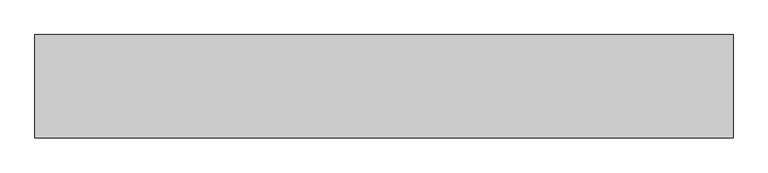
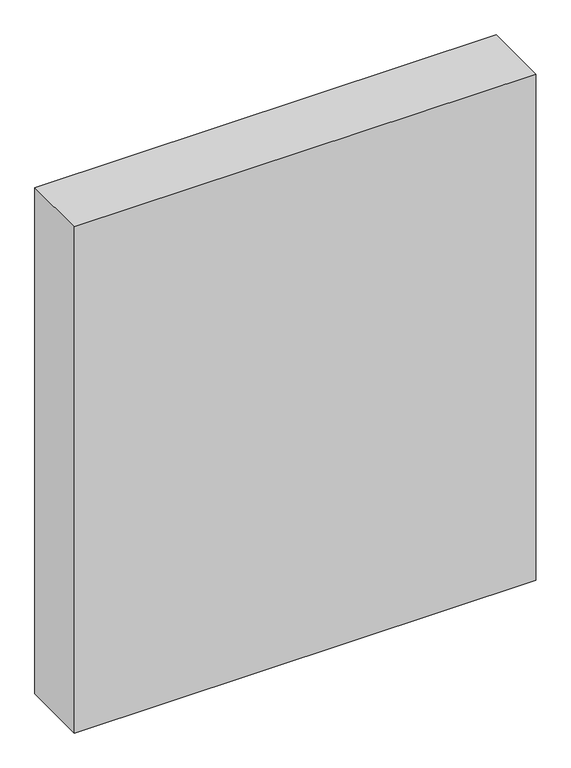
"""IFC4 building model written with IfcOpenShell, lengths in millimetres: proxy geometry."""

import ifcopenshell
import ifcopenshell.guid

model = None  # the IFC model being written
_history = None  # IfcOwnerHistory: only IFC2X3 demands one
_inside = {}  # id of a spatial element -> (the spatial element, [elements in it])
_under = {}  # id of a project, library or spatial element -> (it, [spatial elements below it])
_declared = {}  # id of a project -> (the project, [libraries it declares])
_typed = {}  # id of a type object -> (the type object, [elements of that type])
_made_of = {}  # id of a material, layer set ... -> (it, [elements and type objects made of it])


def new_model(schema):
    """Start an empty IFC model of exactly this schema.

    Asked for "IFC4X3", IfcOpenShell would pick the latest addendum, in which some entities
    have other attributes; the version numbers below select the first issue.
    IFC2X3 requires an IfcOwnerHistory on every rooted entity: one is made here for all.
    """
    global model, _history
    if schema == "IFC4X3":
        model = ifcopenshell.file(schema_version=(4, 3, 0, 0))
    else:
        model = ifcopenshell.file(schema=schema)
    _inside.clear()
    _under.clear()
    _declared.clear()
    _typed.clear()
    _made_of.clear()
    _history = None
    if model.schema == "IFC2X3":
        org = make("IfcOrganization", Name="unknown")
        user = make(
            "IfcPersonAndOrganization",
            ThePerson=make("IfcPerson", FamilyName="unknown"),
            TheOrganization=org,
        )
        app = make(
            "IfcApplication",
            ApplicationDeveloper=org,
            Version="unknown",
            ApplicationFullName="unknown",
            ApplicationIdentifier="unknown",
        )
        _history = make(
            "IfcOwnerHistory",
            OwningUser=user,
            OwningApplication=app,
            ChangeAction="ADDED",
            CreationDate=0,
        )
    return model


def make(cls, **values):
    """One entity of the class cls with the attributes given. An attribute that is None is left unset."""
    return model.create_entity(
        cls, **{name: value for name, value in values.items() if value is not None}
    )


def rooted(cls, **values):
    """An entity with a GlobalId (a new one), such as an element, a storey or a relation."""
    return make(cls, GlobalId=ifcopenshell.guid.new(), OwnerHistory=_history, **values)


def si_unit(unit_type, name, prefix=None):
    """IfcSIUnit, for example si_unit("LENGTHUNIT", "METRE", prefix="MILLI")."""
    return make("IfcSIUnit", UnitType=unit_type, Prefix=prefix, Name=name)


def assignment(units):
    """IfcUnitAssignment: the units of a project."""
    return None if units is None else make("IfcUnitAssignment", Units=units)


def point(xyz):
    """IfcCartesianPoint."""
    return None if xyz is None else make("IfcCartesianPoint", Coordinates=xyz)


def direction(xyz):
    """IfcDirection."""
    return None if xyz is None else make("IfcDirection", DirectionRatios=xyz)


def frame(location, z_axis=None, x_axis=None):
    """IfcAxis2Placement3D, a coordinate frame: its origin and axes. An axis left out is left unset."""
    return make(
        "IfcAxis2Placement3D",
        Location=point(location),
        Axis=direction(z_axis),
        RefDirection=direction(x_axis),
    )


def origin():
    """The frame at (0, 0, 0) with its axes left unset."""
    return frame((0.0, 0.0, 0.0))


def origin_with_axes():
    """The frame at (0, 0, 0) with the z axis (0, 0, 1) and the x axis (1, 0, 0) written out."""
    return frame((0.0, 0.0, 0.0), z_axis=(0.0, 0.0, 1.0), x_axis=(1.0, 0.0, 0.0))


def place(relative_to, where):
    """IfcLocalPlacement: puts the frame where relative to a parent placement (None: the world)."""
    return make(
        "IfcLocalPlacement", PlacementRelTo=relative_to, RelativePlacement=where
    )


def context(
    kind, dimensions, precision=None, world=None, true_north=None, identifier=None
):
    """IfcGeometricRepresentationContext, for example the 3D "Model" context."""
    return make(
        "IfcGeometricRepresentationContext",
        ContextIdentifier=identifier,
        ContextType=kind,
        CoordinateSpaceDimension=dimensions,
        Precision=precision,
        WorldCoordinateSystem=world,
        TrueNorth=true_north,
    )


def project(units=None, contexts=None):
    """IfcProject with its units and contexts."""
    return rooted(
        "IfcProject",
        Name="project",
        RepresentationContexts=contexts,
        UnitsInContext=assignment(units),
    )


def spatial(cls, under=None, at=None, **own):
    """A site, building, storey or space (cls), placed at a placement, below another one or the project."""
    s = rooted(cls, ObjectPlacement=at, **own)
    if under is not None:
        _under.setdefault(under.id(), (under, []))[1].append(s)
    return s


def polyline(points):
    """IfcPolyline through the points."""
    return make("IfcPolyline", Points=[point(p) for p in points])


def outline(outer, holes=None, kind="AREA"):
    """IfcArbitraryClosedProfileDef: a profile drawn as a closed curve; with holes, ...WithVoids."""
    if holes is None:
        return make("IfcArbitraryClosedProfileDef", ProfileType=kind, OuterCurve=outer)
    return make(
        "IfcArbitraryProfileDefWithVoids",
        ProfileType=kind,
        OuterCurve=outer,
        InnerCurves=holes,
    )


def extrude(swept, where, along, depth):
    """IfcExtrudedAreaSolid: the profile swept, set in the frame where, extruded along a direction by depth."""
    return make(
        "IfcExtrudedAreaSolid",
        SweptArea=swept,
        Position=where,
        ExtrudedDirection=direction(along),
        Depth=depth,
    )


def shape(context_of_items, identifier, shape_type, items):
    """IfcShapeRepresentation: the items that make up one representation, for example the "Body"."""
    return make(
        "IfcShapeRepresentation",
        ContextOfItems=context_of_items,
        RepresentationIdentifier=identifier,
        RepresentationType=shape_type,
        Items=items,
    )


def source(mapping_origin, context_of_items, identifier, shape_type, items):
    """IfcRepresentationMap: a shape defined once, which mapped items show again and again."""
    return make(
        "IfcRepresentationMap",
        MappingOrigin=mapping_origin,
        MappedRepresentation=shape(context_of_items, identifier, shape_type, items),
    )


def transform(
    local_origin,
    x_axis=None,
    y_axis=None,
    z_axis=None,
    scale=None,
    scale2=None,
    scale3=None,
    uniform=True,
):
    """IfcCartesianTransformationOperator3D, or its non-uniform kind. x_axis, y_axis, z_axis: its Axis1, 2, 3."""
    if uniform:
        return make(
            "IfcCartesianTransformationOperator3D",
            Axis1=direction(x_axis),
            Axis2=direction(y_axis),
            LocalOrigin=point(local_origin),
            Scale=scale,
            Axis3=direction(z_axis),
        )
    return make(
        "IfcCartesianTransformationOperator3DnonUniform",
        Axis1=direction(x_axis),
        Axis2=direction(y_axis),
        LocalOrigin=point(local_origin),
        Scale=scale,
        Axis3=direction(z_axis),
        Scale2=scale2,
        Scale3=scale3,
    )


def mapped(mapping_source, mapping_target):
    """IfcMappedItem: shows the shape of a source again, moved by a transform."""
    return make(
        "IfcMappedItem", MappingSource=mapping_source, MappingTarget=mapping_target
    )


def made_of(thing, what):
    """Note that an element or type object is made of a material, layer set ...; save() writes the relation."""
    if what is not None:
        _made_of.setdefault(what.id(), (what, []))[1].append(thing)
    return thing


def element(
    cls,
    number,
    at=None,
    inside=None,
    cuts=None,
    type_object=None,
    material=None,
    context=None,
    identifier="Body",
    shape_type=None,
    held_by="IfcProductDefinitionShape",
    body=None,
    shapes=None,
    **own,
):
    """One element of the class cls, such as IfcWall. Its Tag is "e" and its number.

    at: its placement. inside: the storey or other place that contains it. cuts: it is an
    opening in that element (IfcRelVoidsElement). A single representation is given by context,
    identifier, shape_type and body (its items); several are given by shapes. held_by: the class
    of the entity that holds the representations. save() writes the other relations.
    """
    e = rooted(cls, Tag="e%d" % number, ObjectPlacement=at, **own)
    if body is not None:
        shapes = [shape(context, identifier, shape_type, body)]
    if shapes is not None:
        e.Representation = make(held_by, Representations=shapes)
    if inside is not None:
        _inside.setdefault(inside.id(), (inside, []))[1].append(e)
    if cuts is not None:
        rooted(
            "IfcRelVoidsElement", RelatingBuildingElement=cuts, RelatedOpeningElement=e
        )
    if type_object is not None:
        _typed.setdefault(type_object.id(), (type_object, []))[1].append(e)
    return made_of(e, material)


def aggregate(whole, parts):
    """IfcRelAggregates: a whole, such as a stair, and the parts it consists of."""
    return rooted("IfcRelAggregates", RelatingObject=whole, RelatedObjects=parts)


def save(model, path):
    """Write the relations noted so far, then the file.

    IfcRelAggregates (storeys below a building ...), IfcRelContainedInSpatialStructure (elements
    in a storey), IfcRelDefinesByType, IfcRelAssociatesMaterial and IfcRelDeclares: one each for
    every whole, place, type object, material and project.
    """
    for whole, parts in _under.values():
        aggregate(whole, parts)
    for where, things in _inside.values():
        rooted(
            "IfcRelContainedInSpatialStructure",
            RelatedElements=things,
            RelatingStructure=where,
        )
    for kind, things in _typed.values():
        rooted("IfcRelDefinesByType", RelatedObjects=things, RelatingType=kind)
    for what, things in _made_of.values():
        rooted("IfcRelAssociatesMaterial", RelatedObjects=things, RelatingMaterial=what)
    for by, libraries in _declared.values():
        rooted("IfcRelDeclares", RelatingContext=by, RelatedDefinitions=libraries)
    model.write(path)


def generic_models_eff55e57(model_context):
    return source(origin(), model_context, "Body", "SweptSolid", [
        extrude(outline(polyline([(-101948.3455046, -27230.7903364), (-104646.1304765, -27230.7903364), (-104646.1304765, -26830.7903364), (-101948.3455046, -26830.7903364), (-101948.3455046, -27230.7903364)])), origin_with_axes(), (0.0, 0.0, 1.0), 3130.0),
    ])


if __name__ == "__main__":
    model = new_model("IFC4")
    model_context = context("Model", 3, world=origin())
    ifc_project = project(units=[si_unit("LENGTHUNIT", "METRE", prefix="MILLI")], contexts=[model_context])
    site = spatial("IfcSite", under=ifc_project)
    building = spatial("IfcBuilding", under=site)
    placement = place(None, origin())
    generic_models_shape = generic_models_eff55e57(model_context)
    element("IfcBuildingElementProxy", 1, Name="Generic Models", at=placement, inside=building, context=model_context, shape_type="MappedRepresentation", body=[
        mapped(generic_models_shape, transform((0.0, 0.0, 0.0), x_axis=(1.0, 0.0, 0.0), y_axis=(0.0, 1.0, 0.0), z_axis=(0.0, 0.0, 1.0))),
    ])
    save(model, "model.ifc")
